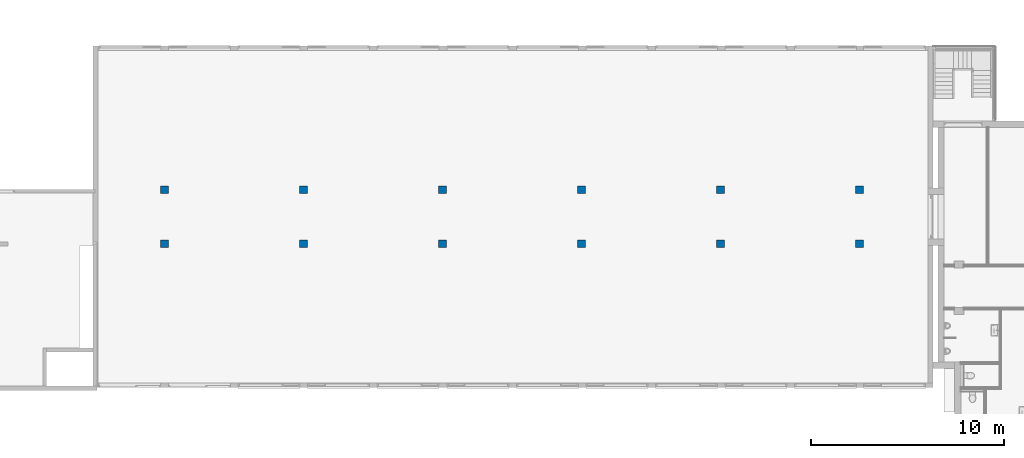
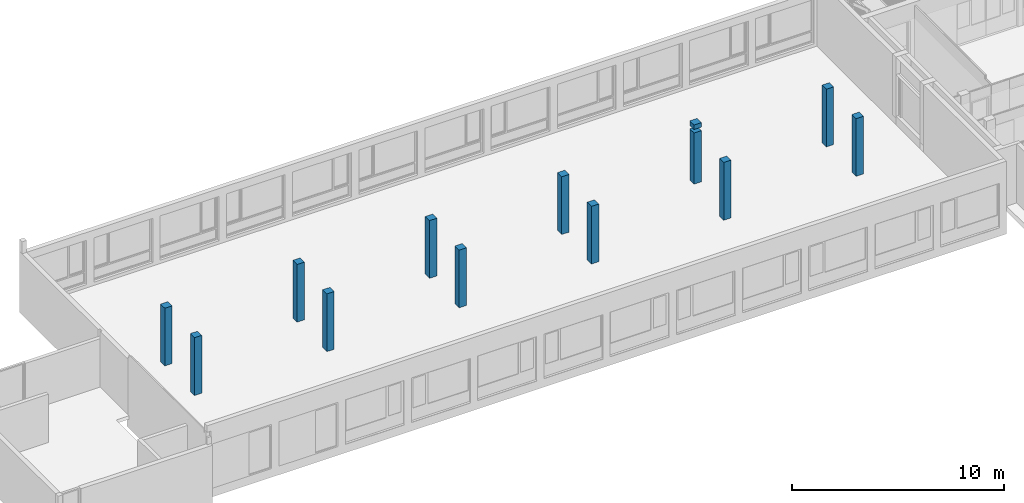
# One storey, part 12 of 117: 12 columns.
"""IFC2X3 building model written with IfcOpenShell, lengths in millimetres."""

from ifc_helpers import new_model, entity, si_unit, converted_unit, derived_unit, money_unit, direction, frame, origin_with_axes, place, context, subcontext, project, spatial, faceted_brep, material, type_object, element, save


model = new_model("IFC2X3")

# Units and contexts
model_context = context("Model", 3, precision=0.01, world=origin_with_axes(), true_north=direction((0.0, 1.0)))
body_context = subcontext(model_context, "Body", "Model", "MODEL_VIEW")
ifc_project = project(units=[si_unit("LENGTHUNIT", "METRE", prefix="MILLI"), si_unit("AREAUNIT", "SQUARE_METRE"), si_unit("VOLUMEUNIT", "CUBIC_METRE"), converted_unit("PLANEANGLEUNIT", "DEGREE", entity("IfcPlaneAngleMeasure", 0.0174532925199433), si_unit("PLANEANGLEUNIT", "RADIAN"), dimensions=[0, 0, 0, 0, 0, 0, 0]), money_unit("EUR"), converted_unit("TIMEUNIT", "Year", entity("IfcTimeMeasure", 31557600.0), si_unit("TIMEUNIT", "SECOND"), dimensions=[0, 0, 1, 0, 0, 0, 0]), si_unit("MASSUNIT", "GRAM", prefix="KILO"), si_unit("THERMODYNAMICTEMPERATUREUNIT", "DEGREE_CELSIUS"), si_unit("LUMINOUSINTENSITYUNIT", "LUMEN"), si_unit("ENERGYUNIT", "JOULE", prefix="MEGA"), derived_unit("THERMALCONDUCTANCEUNIT", [(si_unit("POWERUNIT", "WATT"), 1), (si_unit("LENGTHUNIT", "METRE"), -1), (si_unit("THERMODYNAMICTEMPERATUREUNIT", "KELVIN"), -1)]), derived_unit("SPECIFICHEATCAPACITYUNIT", [(si_unit("ENERGYUNIT", "JOULE"), 1), (si_unit("MASSUNIT", "GRAM", prefix="KILO"), -1), (si_unit("THERMODYNAMICTEMPERATUREUNIT", "KELVIN"), -1)]), derived_unit("MASSDENSITYUNIT", [(si_unit("MASSUNIT", "GRAM", prefix="KILO"), 1), (si_unit("VOLUMEUNIT", "CUBIC_METRE"), -1)])], contexts=[model_context])

# Site, building, storey
site_placement = place(None, origin_with_axes())
site = spatial("IfcSite", under=ifc_project, at=site_placement, Name="Site", CompositionType="ELEMENT")
building_placement = place(site_placement, origin_with_axes())
building = spatial("IfcBuilding", under=site, at=building_placement, Name="Naam gebouw", CompositionType="ELEMENT")
storey_placement = place(building_placement, frame((0.0, 0.0, 4150.0), z_axis=(0.0, 0.0, 1.0), x_axis=(1.0, 0.0, 0.0)))
storey = spatial("IfcBuildingStorey", under=building, at=storey_placement, Name="1e verdieping N", CompositionType="ELEMENT", Elevation=4150.0)

# Columns
ifc_material = material(Name="ALG - CONSTRUCTIEF")
column_type = type_object("IfcColumnType", Name="ALG - CONSTRUCTIEF 400 x 400", PredefinedType="COLUMN")
column_1_placement = place(storey_placement, frame((-5150.0, 16765.57502437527, -560.0000000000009), z_axis=(0.0, 0.0, 1.0), x_axis=(1.0, 0.0, 0.0)))
element("IfcColumn", 1, at=column_1_placement, inside=storey, type_object=column_type, material=ifc_material, Name="_Kolom-x", ObjectType="COLUMN", context=body_context, shape_type="Brep", body=[
    faceted_brep([(200.0000000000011, -199.9999999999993, 3400.000000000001), (200.0000000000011, -199.9999999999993, 80.00000000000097), (200.0000000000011, 199.9999999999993, 80.00000000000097), (200.0000000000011, 199.9999999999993, 3400.000000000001), (-200.0000000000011, -199.9999999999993, 3400.000000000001), (-200.0000000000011, -199.9999999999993, 80.00000000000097), (-200.0000000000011, 199.9999999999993, 80.00000000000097), (-200.0000000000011, 199.9999999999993, 3400.000000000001)], [[[0, 1, 2, 3]], [[4, 5, 1, 0]], [[5, 6, 2, 1]], [[3, 2, 6, 7]], [[3, 7, 4, 0]], [[7, 6, 5, 4]]]),
])
column_2_placement = place(storey_placement, frame((-5150.0, 13965.57502437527, -480.0000000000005), z_axis=(0.0, 0.0, 1.0), x_axis=(1.0, 0.0, 0.0)))
element("IfcColumn", 2, at=column_2_placement, inside=storey, type_object=column_type, material=ifc_material, Name="_Kolom-x", ObjectType="COLUMN", context=body_context, shape_type="Brep", body=[
    faceted_brep([(200.0000000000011, -199.9999999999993, 3320.0), (-200.0000000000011, -199.9999999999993, 3320.0), (-200.0000000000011, -199.9999999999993, 0.0), (200.0000000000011, -199.9999999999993, 0.0), (200.0000000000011, 199.9999999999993, 3320.0), (-200.0000000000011, 199.9999999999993, 3320.0), (-200.0000000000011, 199.9999999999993, 0.0), (200.0000000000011, 199.9999999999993, 0.0)], [[[0, 1, 2, 3]], [[4, 5, 1, 0]], [[1, 5, 6, 2]], [[7, 3, 2, 6]], [[4, 0, 3, 7]], [[5, 4, 7, 6]]]),
])
for number, where, z_axis, x_axis, name in (
    (3, (-12350.0, 13965.57502437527, -480.0), (0.0, 0.0, 1.0), (1.0, 0.0, 0.0), "_Kolom-x"),
    (4, (-19550.00000000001, 13965.57502437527, -480.0000000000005), (0.0, 0.0, 1.0), (1.0, 0.0, 0.0), "_Kolom-x"),
):
    element("IfcColumn", number, at=place(storey_placement, frame(where, z_axis=z_axis, x_axis=x_axis)), inside=storey, type_object=column_type, material=ifc_material, Name=name, ObjectType="COLUMN", context=body_context, shape_type="Brep", body=[
        faceted_brep([(-199.9999999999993, 199.9999999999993, 0.0), (-199.9999999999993, 199.9999999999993, 3320.0), (199.9999999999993, 199.9999999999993, 3320.0), (199.9999999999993, 199.9999999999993, 0.0), (-199.9999999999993, -199.9999999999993, 0.0), (-199.9999999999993, -199.9999999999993, 3320.0), (199.9999999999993, -199.9999999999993, 3320.0), (199.9999999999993, -199.9999999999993, 0.0)], [[[0, 1, 2, 3]], [[4, 5, 1, 0]], [[5, 6, 2, 1]], [[3, 2, 6, 7]], [[3, 7, 4, 0]], [[7, 6, 5, 4]]]),
    ])
column_3_placement = place(storey_placement, frame((-19550.0, 16765.57502437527, -480.0000000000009), z_axis=(0.0, 0.0, 1.0), x_axis=(1.0, 0.0, 0.0)))
element("IfcColumn", 5, at=column_3_placement, inside=storey, type_object=column_type, material=ifc_material, Name="_Kolom-x", ObjectType="COLUMN", context=body_context, shape_type="Brep", body=[
    faceted_brep([(-199.9999999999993, 199.9999999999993, 0.0), (-199.9999999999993, 199.9999999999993, 3320.000000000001), (199.9999999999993, 199.9999999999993, 3320.000000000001), (199.9999999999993, 199.9999999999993, 0.0), (-199.9999999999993, -199.9999999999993, 0.0), (-199.9999999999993, -199.9999999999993, 3320.000000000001), (199.9999999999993, -199.9999999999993, 3320.000000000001), (199.9999999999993, -199.9999999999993, 0.0)], [[[0, 1, 2, 3]], [[4, 5, 1, 0]], [[5, 6, 2, 1]], [[3, 2, 6, 7]], [[3, 7, 4, 0]], [[7, 6, 5, 4]]]),
])
column_4_placement = place(storey_placement, frame((-26750.00000000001, 13965.57502437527, -480.0000000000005), z_axis=(0.0, 0.0, 1.0), x_axis=(1.0, 0.0, 0.0)))
element("IfcColumn", 6, at=column_4_placement, inside=storey, type_object=column_type, material=ifc_material, Name="_Kolom-x", ObjectType="COLUMN", context=body_context, shape_type="Brep", body=[
    faceted_brep([(-199.9999999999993, 199.9999999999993, 0.0), (-199.9999999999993, 199.9999999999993, 3320.0), (199.9999999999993, 199.9999999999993, 3320.0), (199.9999999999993, 199.9999999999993, 0.0), (-199.9999999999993, -199.9999999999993, 0.0), (-199.9999999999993, -199.9999999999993, 3320.0), (199.9999999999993, -199.9999999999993, 3320.0), (199.9999999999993, -199.9999999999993, 0.0)], [[[0, 1, 2, 3]], [[4, 5, 1, 0]], [[5, 6, 2, 1]], [[3, 2, 6, 7]], [[3, 7, 4, 0]], [[7, 6, 5, 4]]]),
])
column_5_placement = place(storey_placement, frame((-26750.0, 16765.57502437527, -480.0000000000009), z_axis=(0.0, 0.0, 1.0), x_axis=(1.0, 0.0, 0.0)))
element("IfcColumn", 7, at=column_5_placement, inside=storey, type_object=column_type, material=ifc_material, Name="_Kolom-x", ObjectType="COLUMN", context=body_context, shape_type="Brep", body=[
    faceted_brep([(-199.9999999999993, 199.9999999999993, 0.0), (-199.9999999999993, 199.9999999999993, 3320.000000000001), (199.9999999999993, 199.9999999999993, 3320.000000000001), (199.9999999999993, 199.9999999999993, 0.0), (-199.9999999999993, -199.9999999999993, 0.0), (-199.9999999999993, -199.9999999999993, 3320.000000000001), (199.9999999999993, -199.9999999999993, 3320.000000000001), (199.9999999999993, -199.9999999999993, 0.0)], [[[0, 1, 2, 3]], [[4, 5, 1, 0]], [[5, 6, 2, 1]], [[3, 2, 6, 7]], [[3, 7, 4, 0]], [[7, 6, 5, 4]]]),
])
column_6_placement = place(storey_placement, frame((-33950.00000000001, 13965.57502437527, -480.0000000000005), z_axis=(0.0, 0.0, 1.0), x_axis=(1.0, 0.0, 0.0)))
element("IfcColumn", 8, at=column_6_placement, inside=storey, type_object=column_type, material=ifc_material, Name="_Kolom-x", ObjectType="COLUMN", context=body_context, shape_type="Brep", body=[
    faceted_brep([(-200.0000000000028, 199.9999999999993, 0.0), (-200.0000000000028, 199.9999999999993, 3320.0), (200.0000000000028, 199.9999999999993, 3320.0), (200.0000000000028, 199.9999999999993, 0.0), (-200.0000000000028, -199.9999999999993, 0.0), (-200.0000000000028, -199.9999999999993, 3320.0), (200.0000000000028, -199.9999999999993, 3320.0), (200.0000000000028, -199.9999999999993, 0.0)], [[[0, 1, 2, 3]], [[4, 5, 1, 0]], [[5, 6, 2, 1]], [[3, 2, 6, 7]], [[3, 7, 4, 0]], [[7, 6, 5, 4]]]),
])
column_7_placement = place(storey_placement, frame((-12350.0, 16765.81336172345, -99.99999999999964), z_axis=(0.0, 0.0, 1.0), x_axis=(1.0, 0.0, 0.0)))
element("IfcColumn", 9, at=column_7_placement, inside=storey, type_object=column_type, material=ifc_material, Name="_Kolom-x", ObjectType="COLUMN", context=body_context, shape_type="Brep", body=[
    faceted_brep([(-199.9999999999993, 199.9999999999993, 0.0), (-199.9999999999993, 199.9999999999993, 2940.0), (199.9999999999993, 199.9999999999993, 2940.0), (199.9999999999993, 199.9999999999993, 0.0), (-199.9999999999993, -199.9999999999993, 0.0), (-199.9999999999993, -199.9999999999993, 2940.0), (199.9999999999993, -199.9999999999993, 2940.0), (199.9999999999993, -199.9999999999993, 0.0)], [[[0, 1, 2, 3]], [[4, 5, 1, 0]], [[5, 6, 2, 1]], [[3, 2, 6, 7]], [[3, 7, 4, 0]], [[7, 6, 5, 4]]]),
    faceted_brep([(199.9999999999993, -199.9999999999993, 3400.0), (199.9999999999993, -199.9999999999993, 3140.0), (199.9999999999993, 199.9999999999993, 3140.0), (199.9999999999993, 199.9999999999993, 3400.0), (-199.9999999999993, -199.9999999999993, 3400.0), (-199.9999999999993, -199.9999999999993, 3140.0), (-199.9999999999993, 199.9999999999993, 3140.0), (-199.9999999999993, 199.9999999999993, 3400.0)], [[[0, 1, 2, 3]], [[4, 5, 1, 0]], [[5, 6, 2, 1]], [[3, 2, 6, 7]], [[3, 7, 4, 0]], [[7, 6, 5, 4]]]),
])
for number, where, z_axis, x_axis, name in (
    (10, (-33950.0, 16765.74827356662, -560.0000000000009), (0.0, 0.0, 1.0), (1.0, 0.0, 0.0), "_Kolom-x"),
    (11, (-41150.0, 16765.74827356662, -560.0000000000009), (0.0, 0.0, 1.0), (1.0, 0.0, 0.0), "_Kolom-x"),
    (12, (-41150.0, 13968.3933001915, -560.0000000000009), (0.0, 0.0, 1.0), (1.0, 0.0, 0.0), "_Kolom-x"),
):
    element("IfcColumn", number, at=place(storey_placement, frame(where, z_axis=z_axis, x_axis=x_axis)), inside=storey, type_object=column_type, material=ifc_material, Name=name, ObjectType="COLUMN", context=body_context, shape_type="Brep", body=[
        faceted_brep([(200.0000000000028, -199.9999999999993, 3400.000000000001), (200.0000000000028, -199.9999999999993, 80.00000000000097), (200.0000000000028, 199.9999999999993, 80.00000000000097), (200.0000000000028, 199.9999999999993, 3400.000000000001), (-200.0000000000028, -199.9999999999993, 3400.000000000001), (-200.0000000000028, -199.9999999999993, 80.00000000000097), (-200.0000000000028, 199.9999999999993, 80.00000000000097), (-200.0000000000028, 199.9999999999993, 3400.000000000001)], [[[0, 1, 2, 3]], [[4, 5, 1, 0]], [[5, 6, 2, 1]], [[3, 2, 6, 7]], [[3, 7, 4, 0]], [[7, 6, 5, 4]]]),
    ])

save(model, "model.ifc")
